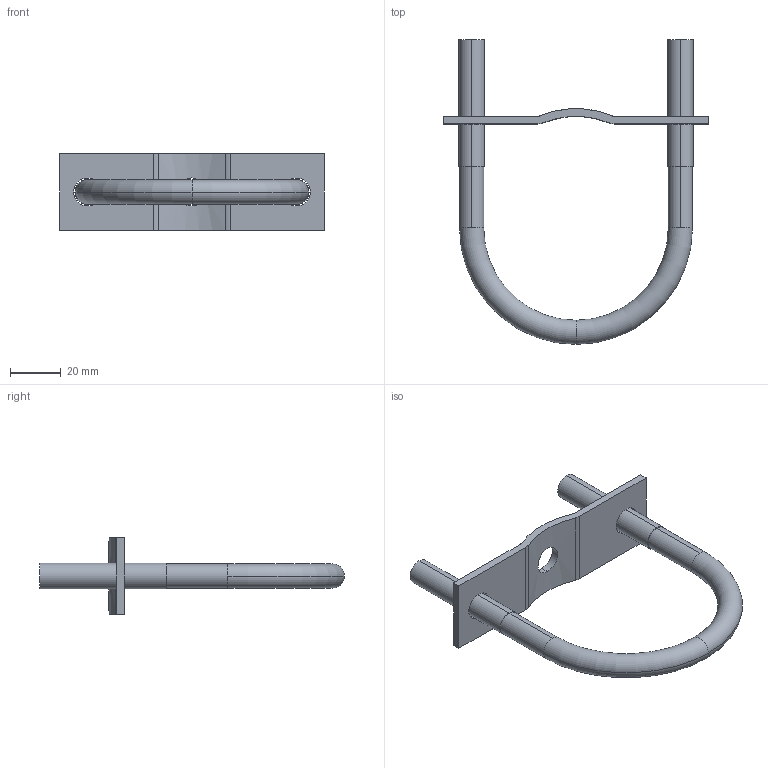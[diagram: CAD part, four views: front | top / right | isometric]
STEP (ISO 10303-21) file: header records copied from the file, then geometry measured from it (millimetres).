
FILE_DESCRIPTION((''),'2;1');
FILE_NAME('2014612200_ASM','2017-05-12T',('Administrator'),(''),'PRO/ENGINEER BY PARAMETRIC TECHNOLOGY CORPORATION, 2009360','PRO/ENGINEER BY PARAMETRIC TECHNOLOGY CORPORATION, 2009360','');
FILE_SCHEMA(('AUTOMOTIVE_DESIGN_CC2 { 1 2 10303 214 -1 1 5 2 }'));
Length unit declared in the file: millimetre
Products named in the file (3): MANIFOLD_SOLID_BREP_145; MANIFOLD_SOLID_BREP_146; 2014612200_ASM
Assembly tree (2 placements, depth 2):
  2014612200_ASM
    MANIFOLD_SOLID_BREP_145
    MANIFOLD_SOLID_BREP_146
Bounding box: 104 x 119.75 x 30 mm (x, y, z)
Volume: 28961.6 mm3; surface area: 15428 mm2
Topology: 2 solids, 2 shells, 36 faces, 89 edges, 59 vertices
Faces by surface type: cylinder 20, plane 12, torus 4
Entity records: 1516 total; most frequent: CARTESIAN_POINT 257, DIRECTION 214, ORIENTED_EDGE 178, PRESENTATION_STYLE_ASSIGNMENT 91, STYLED_ITEM 91, CURVE_STYLE 89, EDGE_CURVE 89, AXIS2_PLACEMENT_3D 88
